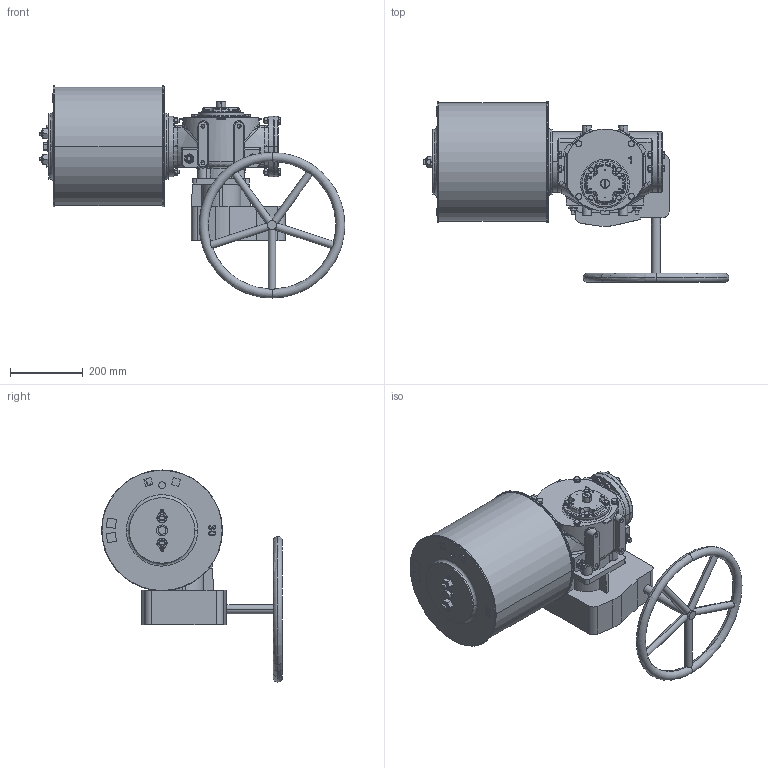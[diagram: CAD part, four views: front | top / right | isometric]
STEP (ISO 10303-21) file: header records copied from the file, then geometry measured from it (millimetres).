
FILE_DESCRIPTION (( 'STEP AP203' ), '1' );
FILE_NAME ('VTS1-300-MW.STEP', '2023-01-01T07:44:05', ( '' ), ( '' ), 'SwSTEP 2.0', 'SolidWorks 2020', '' );
FILE_SCHEMA (( 'CONFIG_CONTROL_DESIGN' ));
Length unit declared in the file: millimetre
Products named in the file (1): VTS1-300-MW
Bounding box: 839.5 x 496.5 x 582.5 mm (x, y, z)
Volume: 41072070.1 mm3; surface area: 1511338.3 mm2
Topology: 8 solids, 14 shells, 1844 faces, 4849 edges, 3071 vertices
Faces by surface type: plane 706, cylinder 514, cone 337, bspline 225, torus 34, sphere 28
Entity records: 83562 total; most frequent: CARTESIAN_POINT 41693, ORIENTED_EDGE 9538, DIRECTION 7515, EDGE_CURVE 4769, VERTEX_POINT 3071, AXIS2_PLACEMENT_3D 2852, EDGE_LOOP 2024, ADVANCED_FACE 1844
